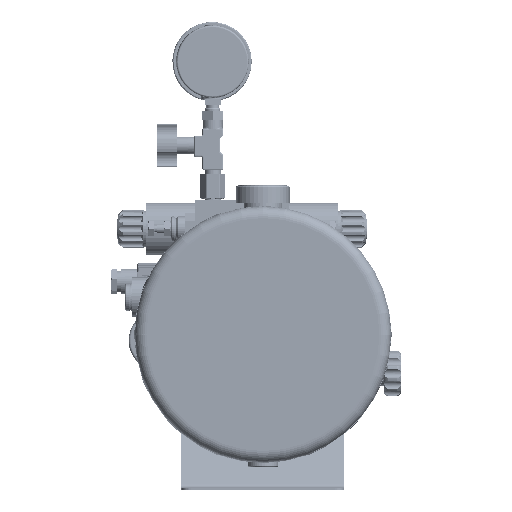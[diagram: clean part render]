
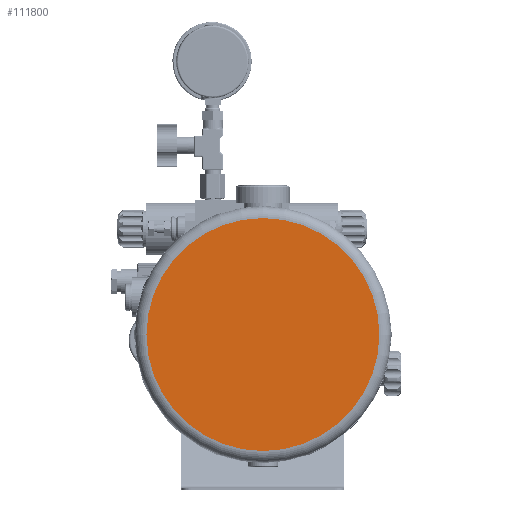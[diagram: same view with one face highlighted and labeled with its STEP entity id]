
A CAD part, left-side view. The second image highlights one B-rep face of the part: STEP entity #111800.
In plain terms, the highlighted planar face has unit normal (-1, 0, 0).
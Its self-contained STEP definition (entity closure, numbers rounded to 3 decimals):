
#22831=PLANE('',#120200);
#27158=FACE_OUTER_BOUND('',#33591,.T.);
#33591=EDGE_LOOP('',(#83148,#83149));
#39974=CIRCLE('',#120201,100.);
#39975=CIRCLE('',#120202,100.);
#48193=VERTEX_POINT('',#206694);
#48194=VERTEX_POINT('',#206695);
#60970=EDGE_CURVE('',#48193,#48194,#39974,.T.);
#60971=EDGE_CURVE('',#48194,#48193,#39975,.T.);
#83148=ORIENTED_EDGE('',*,*,#60970,.T.);
#83149=ORIENTED_EDGE('',*,*,#60971,.T.);
#111800=ADVANCED_FACE('',(#27158),#22831,.T.);
#120200=AXIS2_PLACEMENT_3D('',#206693,#139942,#139943);
#120201=AXIS2_PLACEMENT_3D('',#206696,#139944,#139945);
#120202=AXIS2_PLACEMENT_3D('',#206697,#139946,#139947);
#139942=DIRECTION('center_axis',(-1.,0.,0.));
#139943=DIRECTION('ref_axis',(0.,-1.,0.));
#139944=DIRECTION('center_axis',(-1.,0.,0.));
#139945=DIRECTION('ref_axis',(0.,-1.,0.));
#139946=DIRECTION('center_axis',(-1.,0.,0.));
#139947=DIRECTION('ref_axis',(0.,-1.,0.));
#206693=CARTESIAN_POINT('Origin',(-437.,1878.082,-0.89));
#206694=CARTESIAN_POINT('',(-437.,1778.082,-0.89));
#206695=CARTESIAN_POINT('',(-437.,1978.082,-0.89));
#206696=CARTESIAN_POINT('Origin',(-437.,1878.082,-0.89));
#206697=CARTESIAN_POINT('Origin',(-437.,1878.082,-0.89));
